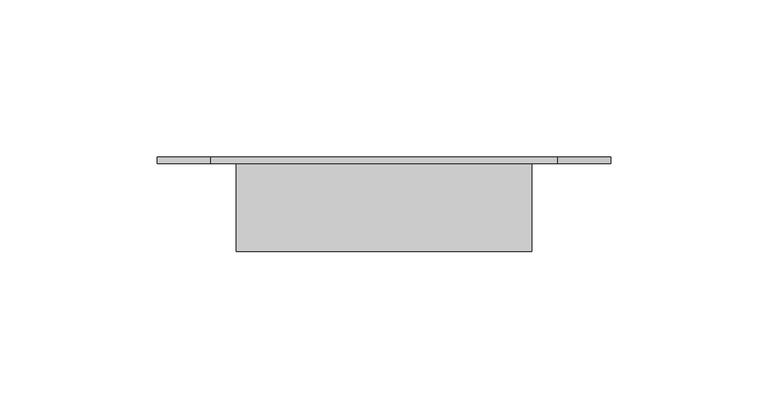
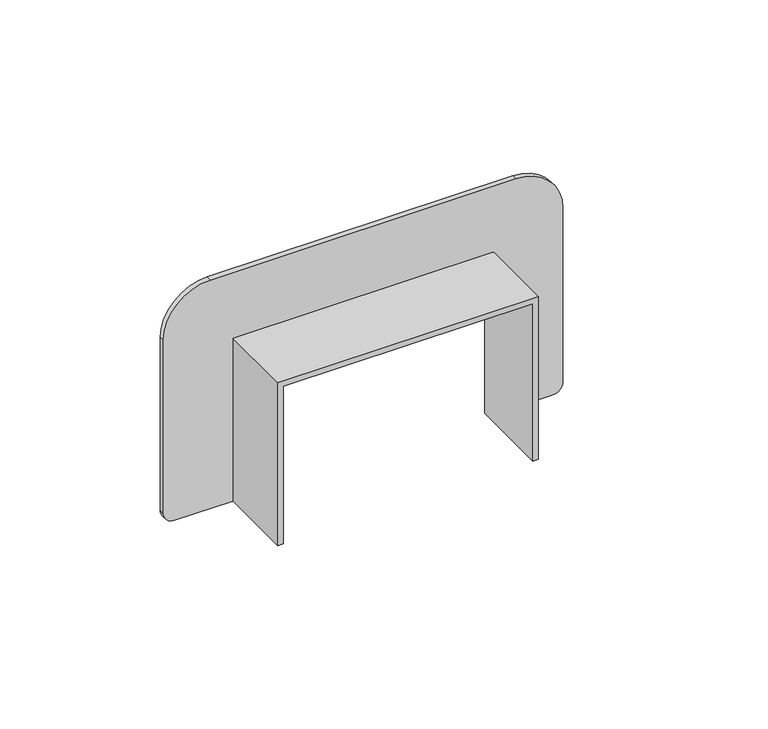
"""IFC4 building model written with IfcOpenShell, lengths in millimetres: duct fitting geometry, КНС_ПрямойВводВСтену_DKC : Прямой ввод в стену_DKC."""

from ifc_helpers import new_model, si_unit, point, frame, frame_2d, origin, place, context, project, spatial, polyline, circle_curve, trimmed, segment, composite_curve, outline, extrude, source, transform, mapped, element, save


def duct_fitting_84f10dba(model_context):
    return source(origin(), model_context, "Body", "SweptSolid", [
        extrude(outline(composite_curve([segment(polyline([(-30.0, -47.0), (32.0, -47.0), (32.0, 47.0), (-30.0, 47.0), (-30.0, 68.0039239)]), True, "CONTINUOUS"), segment(trimmed(circle_curve(frame_2d((-26.0039239, 68.0039239)), 3.9960761), [point((-30.0, 68.0039239))], [point((-26.0039239, 72.0))], False, "CARTESIAN"), True, "CONTINUOUS"), segment(polyline([(-26.0039239, 72.0), (40.0, 72.0)]), True, "CONTINUOUS"), segment(trimmed(circle_curve(frame_2d((40.0, 55.0)), 17.0), [point((40.0, 72.0))], [point((57.0, 55.0))], False, "CARTESIAN"), True, "CONTINUOUS"), segment(polyline([(57.0, 55.0), (57.0, -55.0)]), True, "CONTINUOUS"), segment(trimmed(circle_curve(frame_2d((40.0, -55.0)), 17.0), [point((57.0, -55.0))], [point((40.0, -72.0))], False, "CARTESIAN"), True, "CONTINUOUS"), segment(polyline([(40.0, -72.0), (-26.0204043, -72.0)]), True, "CONTINUOUS"), segment(trimmed(circle_curve(frame_2d((-26.0204043, -68.0204043)), 3.9795957), [point((-26.0204043, -72.0))], [point((-30.0, -68.0204043))], False, "CARTESIAN"), True, "CONTINUOUS"), segment(polyline([(-30.0, -68.0204043), (-30.0, -47.0)]), True, "CONTINUOUS")], self_intersect=False)), frame((0.0, 28.0, 0.0), z_axis=(0.0, 1.0, 0.0), x_axis=(0.0, 0.0, 1.0)), (0.0, 0.0, 1.0), 2.0),
        extrude(outline(polyline([(-30.0, -45.0), (30.0, -45.0), (30.0, 45.0), (-30.0, 45.0), (-30.0, 47.0), (32.0, 47.0), (32.0, -47.0), (-30.0, -47.0), (-30.0, -45.0)])), frame((0.0, 0.0, 0.0), z_axis=(0.0, 1.0, 0.0), x_axis=(0.0, 0.0, 1.0)), (0.0, 0.0, 1.0), 30.0),
    ])


if __name__ == "__main__":
    model = new_model("IFC4")
    model_context = context("Model", 3, world=origin())
    ifc_project = project(units=[si_unit("LENGTHUNIT", "METRE", prefix="MILLI")], contexts=[model_context])
    site = spatial("IfcSite", under=ifc_project)
    building = spatial("IfcBuilding", under=site)
    placement = place(None, origin())
    duct_fitting_shape = duct_fitting_84f10dba(model_context)
    element("IfcDuctFitting", 1, ObjectType="КНС_ПрямойВводВСтену_DKC : Прямой ввод в стену_DKC", at=placement, inside=building, context=model_context, shape_type="MappedRepresentation", body=[
        mapped(duct_fitting_shape, transform((0.0, 0.0, 0.0), x_axis=(1.0, 0.0, 0.0), y_axis=(0.0, 1.0, 0.0), z_axis=(0.0, 0.0, 1.0))),
    ])
    save(model, "model.ifc")
